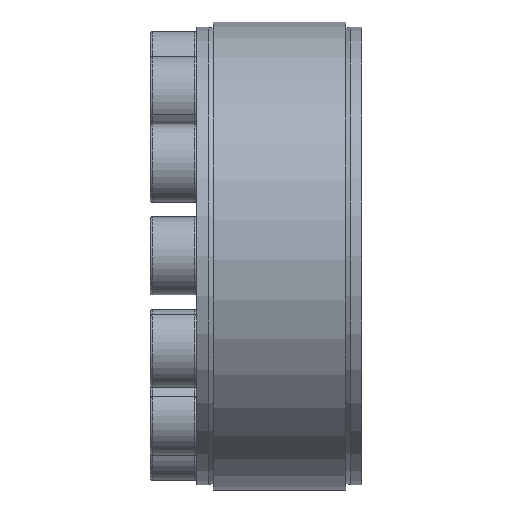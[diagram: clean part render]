
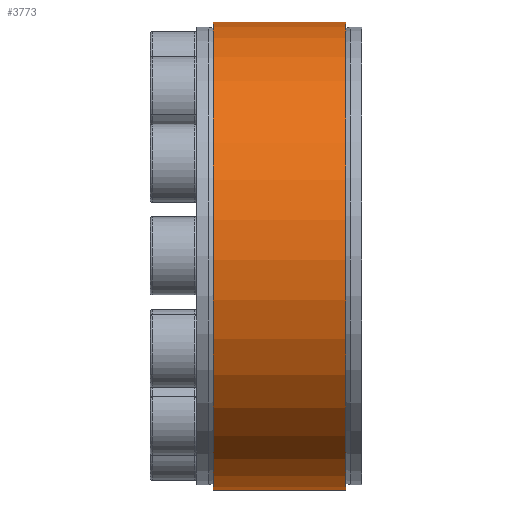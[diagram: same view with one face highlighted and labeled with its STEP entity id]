
A CAD part, front view. The second image highlights one B-rep face of the part: STEP entity #3773.
In plain terms, the highlighted cylindrical face has radius 30 mm (diameter 60 mm), a partial arc.
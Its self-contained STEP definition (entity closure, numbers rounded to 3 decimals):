
#19 = ORIENTED_EDGE ( 'NONE', *, *, #1399, .F. ) ;
#405 = FACE_OUTER_BOUND ( 'NONE', #5854, .T. ) ;
#555 = CARTESIAN_POINT ( 'NONE',  ( -13.426, -1., 29.983 ) ) ;
#897 = CARTESIAN_POINT ( 'NONE',  ( -8.5, -1., 29.983 ) ) ;
#1399 = EDGE_CURVE ( 'NONE', #6436, #7310, #9115, .T. ) ;
#1438 = VERTEX_POINT ( 'NONE', #5682 ) ;
#1924 = DIRECTION ( 'NONE',  ( 0., 0., 1. ) ) ;
#1938 = DIRECTION ( 'NONE',  ( -1., 0., 0. ) ) ;
#2040 = CARTESIAN_POINT ( 'NONE',  ( 8.5, 0., 0. ) ) ;
#2064 = CARTESIAN_POINT ( 'NONE',  ( -13.426, 0., 0. ) ) ;
#2083 = DIRECTION ( 'NONE',  ( -1., 0., 0. ) ) ;
#2128 = DIRECTION ( 'NONE',  ( 0., 0., 1. ) ) ;
#2161 = CYLINDRICAL_SURFACE ( 'NONE', #4462, 30. ) ;
#2221 = EDGE_CURVE ( 'NONE', #7310, #1438, #9772, .T. ) ;
#2340 = ORIENTED_EDGE ( 'NONE', *, *, #8040, .F. ) ;
#2742 = CARTESIAN_POINT ( 'NONE',  ( 8.5, 1., 29.983 ) ) ;
#3160 = EDGE_CURVE ( 'NONE', #4089, #1438, #4040, .T. ) ;
#3561 = ORIENTED_EDGE ( 'NONE', *, *, #2221, .F. ) ;
#3773 = ADVANCED_FACE ( 'NONE', ( #405 ), #2161, .T. ) ;
#3799 = VECTOR ( 'NONE', #9218, 1000. ) ;
#4040 = CIRCLE ( 'NONE', #9838, 30. ) ;
#4089 = VERTEX_POINT ( 'NONE', #2742 ) ;
#4110 = CARTESIAN_POINT ( 'NONE',  ( -8.5, 1., 29.983 ) ) ;
#4462 = AXIS2_PLACEMENT_3D ( 'NONE', #2064, #2083, #2128 ) ;
#5623 = DIRECTION ( 'NONE',  ( 0., 0., 1. ) ) ;
#5644 = DIRECTION ( 'NONE',  ( -1., 0., 0. ) ) ;
#5653 = CARTESIAN_POINT ( 'NONE',  ( -8.5, 0., 0. ) ) ;
#5682 = CARTESIAN_POINT ( 'NONE',  ( 8.5, -1., 29.983 ) ) ;
#5854 = EDGE_LOOP ( 'NONE', ( #2340, #9250, #3561, #19 ) ) ;
#6436 = VERTEX_POINT ( 'NONE', #4110 ) ;
#6756 = AXIS2_PLACEMENT_3D ( 'NONE', #5653, #5644, #5623 ) ;
#7310 = VERTEX_POINT ( 'NONE', #897 ) ;
#7887 = LINE ( 'NONE', #8292, #3799 ) ;
#8040 = EDGE_CURVE ( 'NONE', #4089, #6436, #7887, .T. ) ;
#8292 = CARTESIAN_POINT ( 'NONE',  ( -13.426, 1., 29.983 ) ) ;
#8421 = DIRECTION ( 'NONE',  ( 1., 0., 0. ) ) ;
#9115 = CIRCLE ( 'NONE', #6756, 30. ) ;
#9218 = DIRECTION ( 'NONE',  ( -1., 0., 0. ) ) ;
#9250 = ORIENTED_EDGE ( 'NONE', *, *, #3160, .T. ) ;
#9451 = VECTOR ( 'NONE', #8421, 1000. ) ;
#9772 = LINE ( 'NONE', #555, #9451 ) ;
#9838 = AXIS2_PLACEMENT_3D ( 'NONE', #2040, #1938, #1924 ) ;
